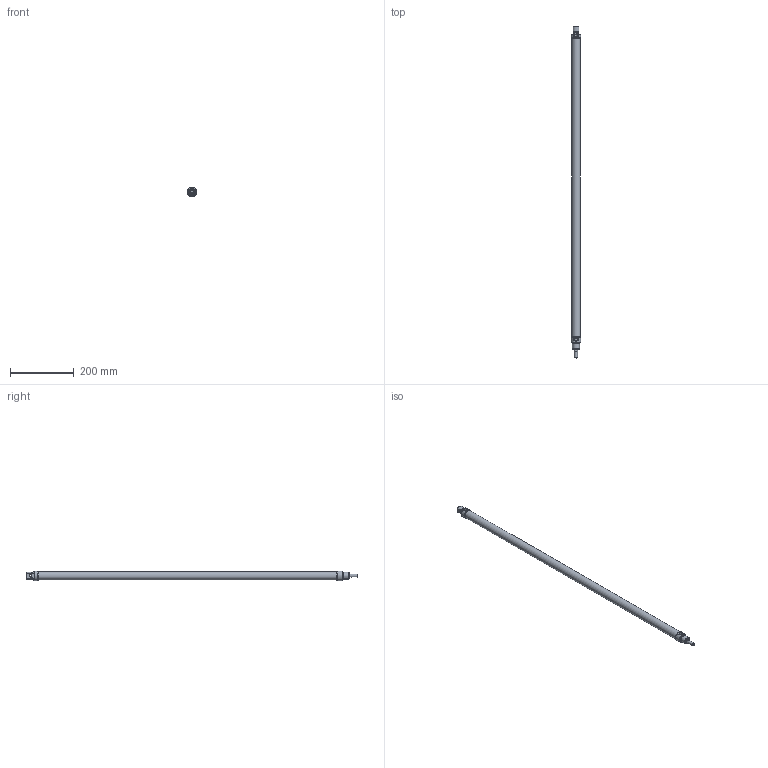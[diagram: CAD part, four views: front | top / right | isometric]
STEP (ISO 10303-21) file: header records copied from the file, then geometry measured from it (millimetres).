
FILE_DESCRIPTION((''),'2;1');
FILE_NAME('T:\Archivio Inventor\- 00 NUOVI STP PER SITO CON STELO CHE SI MUOVE\SERIE O\ODM\ODM025.---.GS.M\ODM025.900.GS.M.stp','2017-06-12T16:04:30',('carlo.corazza'),(''),'Autodesk Inventor 2013','Autodesk Inventor 2013','');
FILE_SCHEMA(('AUTOMOTIVE_DESIGN { 1 0 10303 214 1 1 1 1 }'));
Length unit declared in the file: millimetre
Products named in the file (5): ODM025..GS.M; CORPO-900; STELO-900; TA; TP
Assembly tree (4 placements, depth 2):
  ODM025..GS.M
    CORPO-900
    STELO-900
    TA
    TP
Bounding box: 30 x 1040 x 28.45 mm (x, y, z)
Volume: 168399.4 mm3; surface area: 193048.9 mm2
Topology: 4 solids, 4 shells, 98 faces, 202 edges, 127 vertices
Faces by surface type: plane 38, cylinder 28, cone 24, torus 8
Full cylindrical faces by diameter (mm): 8 x2, 8.566 x2, 9.9 x1, 10 x1, 10.5 x1, 11.1 x1, 14 x1, 14.1 x1, 16.1 x1, 16.2 x1, 19.7 x1, 22 x2, 25 x1, 26.5 x1, 27 x2
Entity records: 2537 total; most frequent: DIRECTION 442, CARTESIAN_POINT 420, ORIENTED_EDGE 292, AXIS2_PLACEMENT_3D 198, EDGE_LOOP 164, EDGE_CURVE 146, VERTEX_POINT 118, FACE_OUTER_BOUND 98
